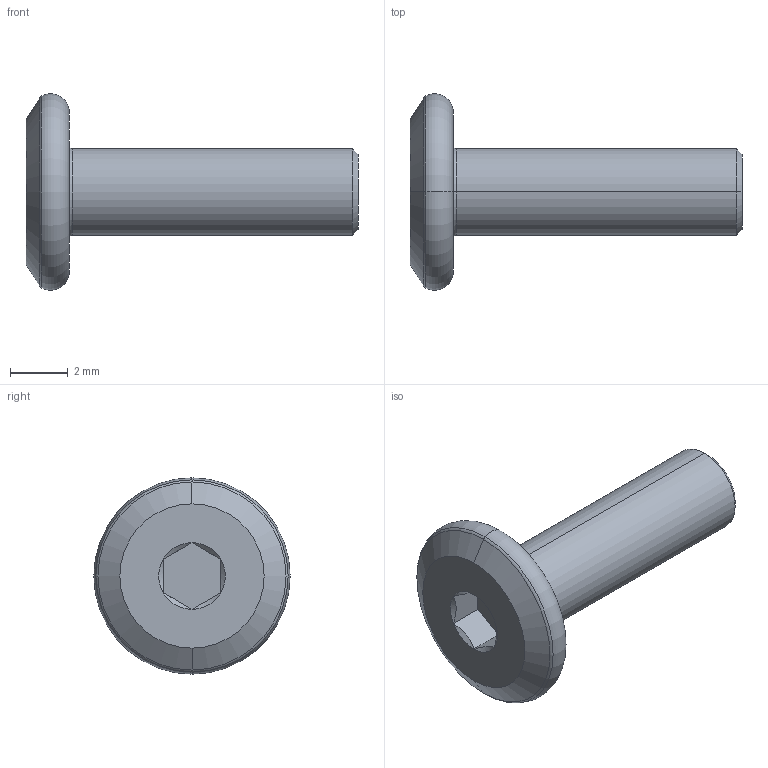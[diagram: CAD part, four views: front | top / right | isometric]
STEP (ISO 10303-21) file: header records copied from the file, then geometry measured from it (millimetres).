
FILE_DESCRIPTION (( 'STEP AP203' ), '1' );
FILE_NAME ('LGD-304D-M3x10.STEP', '2026-08-13T04:06:07', ( '' ), ( '' ), 'SwSTEP 2.0', 'SolidWorks 2020', '' );
FILE_SCHEMA (( 'CONFIG_CONTROL_DESIGN' ));
Length unit declared in the file: millimetre
Products named in the file (1): LGD-304D-M3x10
Bounding box: 11.5 x 6.8 x 6.8 mm (x, y, z)
Volume: 113.8 mm3; surface area: 189.2 mm2
Topology: 1 solids, 1 shells, 28 faces, 52 edges, 28 vertices
Faces by surface type: cone 10, plane 10, torus 6, cylinder 2
Entity records: 779 total; most frequent: CARTESIAN_POINT 139, DIRECTION 132, ORIENTED_EDGE 104, AXIS2_PLACEMENT_3D 57, EDGE_CURVE 52, EDGE_LOOP 30, ADVANCED_FACE 28, CIRCLE 28
